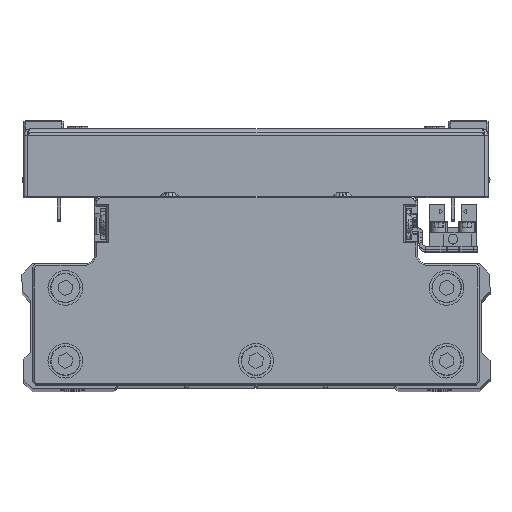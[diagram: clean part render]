
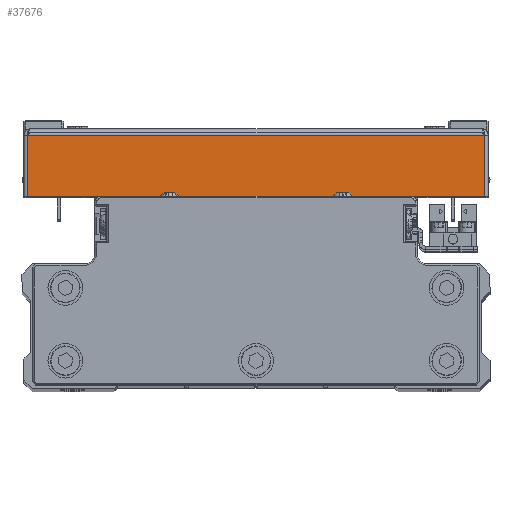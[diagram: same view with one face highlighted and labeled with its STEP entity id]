
A CAD part, top view. The second image highlights one B-rep face of the part: STEP entity #37676.
In plain terms, the highlighted planar face has unit normal (0, 0, 1) as drawn and (1, 0, 0) by its records, which use the part's own axes.
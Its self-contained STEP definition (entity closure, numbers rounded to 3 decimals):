
#2905 = CARTESIAN_POINT ( 'NONE',  ( 100., 0., 65.929 ) ) ;
#3577 = DIRECTION ( 'NONE',  ( 0., -1., 0. ) ) ;
#3718 = LINE ( 'NONE', #17325, #17712 ) ;
#4190 = ORIENTED_EDGE ( 'NONE', *, *, #14488, .F. ) ;
#6916 = PLANE ( 'NONE',  #9110 ) ;
#7244 = ORIENTED_EDGE ( 'NONE', *, *, #19787, .T. ) ;
#7932 = CARTESIAN_POINT ( 'NONE',  ( 100., 1., -65.929 ) ) ;
#9110 = AXIS2_PLACEMENT_3D ( 'NONE', #20535, #34194, #3577 ) ;
#9598 = VECTOR ( 'NONE', #16499, 1000. ) ;
#10730 = VECTOR ( 'NONE', #13212, 1000. ) ;
#10933 = VERTEX_POINT ( 'NONE', #30705 ) ;
#12336 = VERTEX_POINT ( 'NONE', #21751 ) ;
#13212 = DIRECTION ( 'NONE',  ( 0., 1., 0. ) ) ;
#13338 = VERTEX_POINT ( 'NONE', #7932 ) ;
#14488 = EDGE_CURVE ( 'NONE', #13338, #12336, #3718, .T. ) ;
#16290 = LINE ( 'NONE', #29963, #27353 ) ;
#16499 = DIRECTION ( 'NONE',  ( 0., 1., 0. ) ) ;
#17325 = CARTESIAN_POINT ( 'NONE',  ( 100., 1., 67. ) ) ;
#17712 = VECTOR ( 'NONE', #30977, 1000. ) ;
#19787 = EDGE_CURVE ( 'NONE', #10933, #34031, #16290, .T. ) ;
#20535 = CARTESIAN_POINT ( 'NONE',  ( 100., 0., 0. ) ) ;
#21751 = CARTESIAN_POINT ( 'NONE',  ( 100., 1., 65.929 ) ) ;
#26933 = EDGE_CURVE ( 'NONE', #13338, #10933, #30239, .T. ) ;
#27353 = VECTOR ( 'NONE', #43591, 1000. ) ;
#28688 = ORIENTED_EDGE ( 'NONE', *, *, #32565, .F. ) ;
#29963 = CARTESIAN_POINT ( 'NONE',  ( 100., 18.5, 0. ) ) ;
#30239 = LINE ( 'NONE', #43865, #10730 ) ;
#30333 = EDGE_LOOP ( 'NONE', ( #4190, #31522, #7244, #28688 ) ) ;
#30705 = CARTESIAN_POINT ( 'NONE',  ( 100., 18.5, -65.929 ) ) ;
#30977 = DIRECTION ( 'NONE',  ( 0., 0., 1. ) ) ;
#31522 = ORIENTED_EDGE ( 'NONE', *, *, #26933, .T. ) ;
#32565 = EDGE_CURVE ( 'NONE', #12336, #34031, #33511, .T. ) ;
#33511 = LINE ( 'NONE', #2905, #9598 ) ;
#34031 = VERTEX_POINT ( 'NONE', #35706 ) ;
#34194 = DIRECTION ( 'NONE',  ( -1., 0., 0. ) ) ;
#35706 = CARTESIAN_POINT ( 'NONE',  ( 100., 18.5, 65.929 ) ) ;
#37547 = FACE_OUTER_BOUND ( 'NONE', #30333, .T. ) ;
#37676 = ADVANCED_FACE ( 'NONE', ( #37547 ), #6916, .F. ) ;
#43591 = DIRECTION ( 'NONE',  ( 0., 0., 1. ) ) ;
#43865 = CARTESIAN_POINT ( 'NONE',  ( 100., 0., -65.929 ) ) ;
